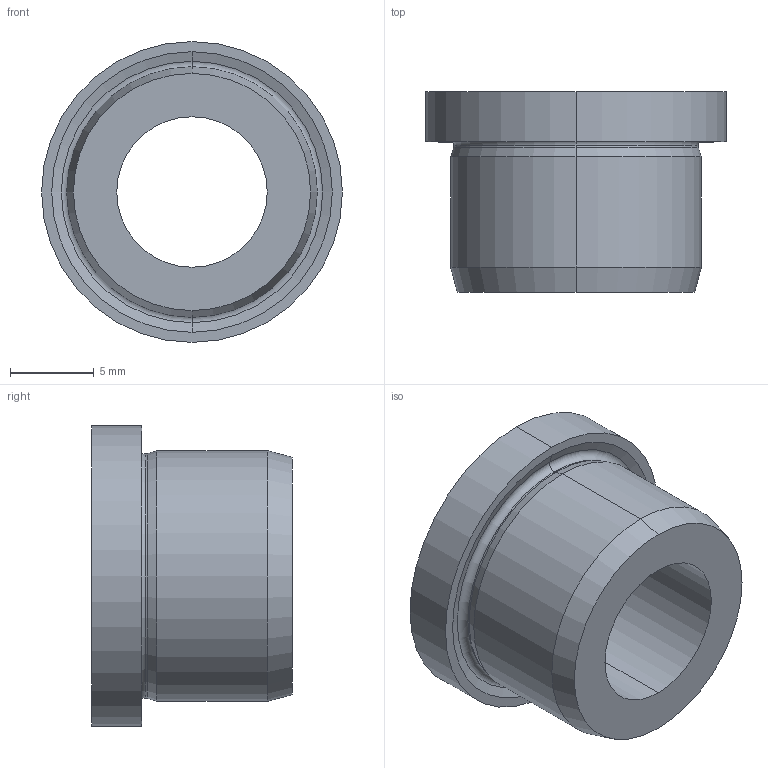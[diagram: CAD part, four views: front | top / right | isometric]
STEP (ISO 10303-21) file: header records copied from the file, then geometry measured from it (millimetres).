
FILE_DESCRIPTION (( 'STEP AP214' ), '1' );
FILE_NAME ('172-B9-12-A.step', '2024-10-17T05:08:38', ( '' ), ( '' ), 'SwSTEP 2.0', 'SolidWorks 2022', '' );
FILE_SCHEMA (( 'AUTOMOTIVE_DESIGN' ));
Length unit declared in the file: millimetre
Products named in the file (1): 172-B9-12-A
Bounding box: 18 x 12 x 18 mm (x, y, z)
Volume: 1563.9 mm3; surface area: 1304.3 mm2
Topology: 1 solids, 1 shells, 21 faces, 42 edges, 24 vertices
Faces by surface type: torus 6, cone 6, cylinder 6, plane 3
Entity records: 632 total; most frequent: DIRECTION 116, CARTESIAN_POINT 88, ORIENTED_EDGE 84, AXIS2_PLACEMENT_3D 52, EDGE_CURVE 42, CIRCLE 30, EDGE_LOOP 24, VERTEX_POINT 24
